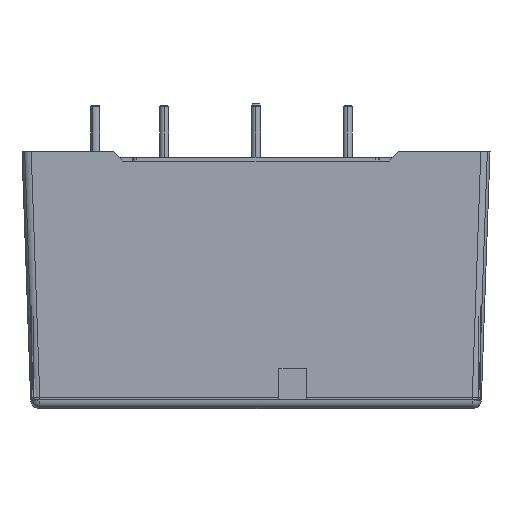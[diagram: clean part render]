
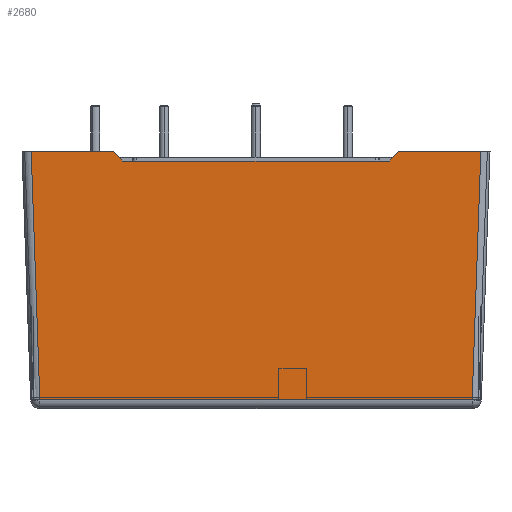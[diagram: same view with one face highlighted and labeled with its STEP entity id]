
A CAD part, left-side view. The second image highlights one B-rep face of the part: STEP entity #2680.
In plain terms, the highlighted planar face has unit normal (-0.999, 0, -0.035).
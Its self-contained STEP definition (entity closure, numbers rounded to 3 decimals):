
#264=CARTESIAN_POINT('',(0.944,49.057,0.965));
#265=VERTEX_POINT('',#264);
#273=CARTESIAN_POINT('',(0.,50.001,28.));
#274=VERTEX_POINT('',#273);
#275=CARTESIAN_POINT('',(0.944,49.057,0.965));
#276=DIRECTION('',(-0.035,0.035,0.999));
#277=VECTOR('',#276,27.068);
#278=LINE('',#275,#277);
#279=EDGE_CURVE('',#265,#274,#278,.T.);
#1925=CARTESIAN_POINT('',(0.,10.,28.));
#1926=VERTEX_POINT('',#1925);
#1933=CARTESIAN_POINT('',(0.,0.999,28.));
#1934=VERTEX_POINT('',#1933);
#1935=CARTESIAN_POINT('',(0.,0.999,28.));
#1936=DIRECTION('',(0.0,1.0,0.0));
#1937=VECTOR('',#1936,9.001);
#1938=LINE('',#1935,#1937);
#1939=EDGE_CURVE('',#1934,#1926,#1938,.T.);
#2592=CARTESIAN_POINT('',(0.035,10.965,27.001));
#2593=VERTEX_POINT('',#2592);
#2594=CARTESIAN_POINT('',(0.035,10.965,27.001));
#2595=DIRECTION('',(-0.025,-0.694,0.719));
#2596=VECTOR('',#2595,1.39);
#2597=LINE('',#2594,#2596);
#2598=EDGE_CURVE('',#2593,#1926,#2597,.T.);
#2618=CARTESIAN_POINT('',(0.977,0.0,0.017));
#2619=DIRECTION('',(-0.999,0.,-0.035));
#2620=DIRECTION('',(-0.035,0.,0.999));
#2621=AXIS2_PLACEMENT_3D('',#2618,#2619,#2620);
#2622=PLANE('',#2621);
#2623=ORIENTED_EDGE('',*,*,#2598,.F.);
#2624=CARTESIAN_POINT('',(0.035,10.965,27.0));
#2625=VERTEX_POINT('',#2624);
#2626=CARTESIAN_POINT('',(0.035,10.965,27.001));
#2627=DIRECTION('',(0.035,-0.035,-0.999));
#2628=VECTOR('',#2627,0.001);
#2629=LINE('',#2626,#2628);
#2630=EDGE_CURVE('',#2593,#2625,#2629,.T.);
#2631=ORIENTED_EDGE('',*,*,#2630,.T.);
#2632=CARTESIAN_POINT('',(0.035,40.035,27.0));
#2633=VERTEX_POINT('',#2632);
#2634=CARTESIAN_POINT('',(0.035,10.965,27.0));
#2635=DIRECTION('',(0.0,1.0,0.0));
#2636=VECTOR('',#2635,29.07);
#2637=LINE('',#2634,#2636);
#2638=EDGE_CURVE('',#2625,#2633,#2637,.T.);
#2639=ORIENTED_EDGE('',*,*,#2638,.T.);
#2640=CARTESIAN_POINT('',(0.035,40.035,27.001));
#2641=VERTEX_POINT('',#2640);
#2642=CARTESIAN_POINT('',(0.035,40.035,27.0));
#2643=DIRECTION('',(-0.035,-0.035,0.999));
#2644=VECTOR('',#2643,0.001);
#2645=LINE('',#2642,#2644);
#2646=EDGE_CURVE('',#2633,#2641,#2645,.T.);
#2647=ORIENTED_EDGE('',*,*,#2646,.T.);
#2648=CARTESIAN_POINT('',(0.,41.,28.));
#2649=VERTEX_POINT('',#2648);
#2650=CARTESIAN_POINT('',(0.,41.,28.));
#2651=DIRECTION('',(0.025,-0.694,-0.719));
#2652=VECTOR('',#2651,1.39);
#2653=LINE('',#2650,#2652);
#2654=EDGE_CURVE('',#2649,#2641,#2653,.T.);
#2655=ORIENTED_EDGE('',*,*,#2654,.F.);
#2656=CARTESIAN_POINT('',(0.,41.,28.));
#2657=DIRECTION('',(0.0,1.0,0.0));
#2658=VECTOR('',#2657,9.001);
#2659=LINE('',#2656,#2658);
#2660=EDGE_CURVE('',#2649,#274,#2659,.T.);
#2661=ORIENTED_EDGE('',*,*,#2660,.T.);
#2662=ORIENTED_EDGE('',*,*,#279,.F.);
#2663=CARTESIAN_POINT('',(0.944,1.943,0.965));
#2664=VERTEX_POINT('',#2663);
#2665=CARTESIAN_POINT('',(0.944,1.943,0.965));
#2666=DIRECTION('',(0.0,1.0,0.0));
#2667=VECTOR('',#2666,47.113);
#2668=LINE('',#2665,#2667);
#2669=EDGE_CURVE('',#2664,#265,#2668,.T.);
#2670=ORIENTED_EDGE('',*,*,#2669,.F.);
#2671=CARTESIAN_POINT('',(0.,0.999,28.));
#2672=DIRECTION('',(0.035,0.035,-0.999));
#2673=VECTOR('',#2672,27.068);
#2674=LINE('',#2671,#2673);
#2675=EDGE_CURVE('',#1934,#2664,#2674,.T.);
#2676=ORIENTED_EDGE('',*,*,#2675,.F.);
#2677=ORIENTED_EDGE('',*,*,#1939,.T.);
#2678=EDGE_LOOP('',(#2623,#2631,#2639,#2647,#2655,#2661,#2662,#2670,#2676,#2677));
#2679=FACE_OUTER_BOUND('',#2678,.T.);
#2680=ADVANCED_FACE('',(#2679),#2622,.T.);
